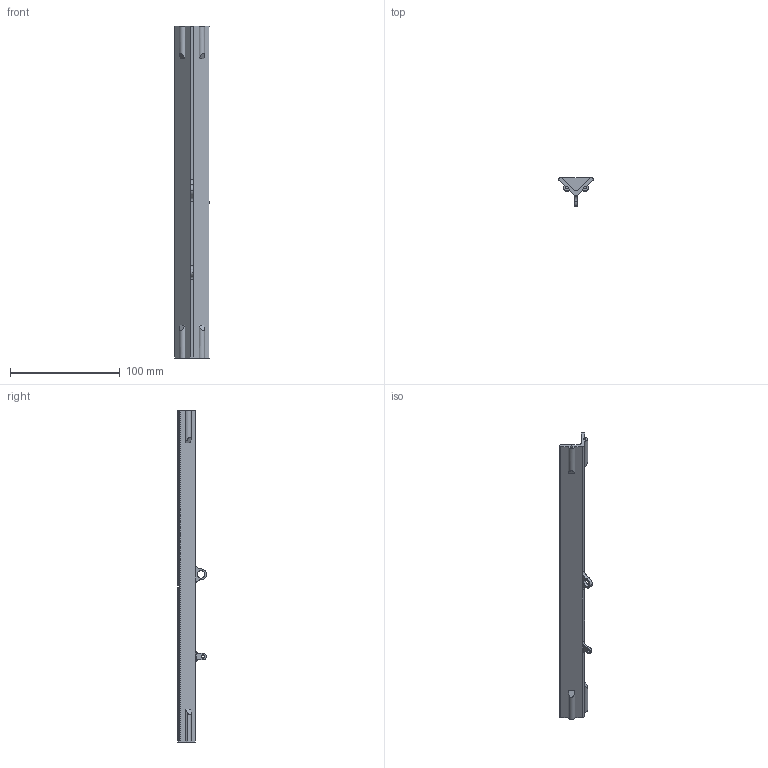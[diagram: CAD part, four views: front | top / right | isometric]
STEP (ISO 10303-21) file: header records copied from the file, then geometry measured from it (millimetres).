
FILE_DESCRIPTION (( 'STEP AP214' ), '1' );
FILE_NAME ('Schiene.STEP', '2025-12-23T14:21:39', ( '' ), ( '' ), 'SwSTEP 2.0', 'SolidWorks 2025', '' );
FILE_SCHEMA (( 'AUTOMOTIVE_DESIGN' ));
Length unit declared in the file: millimetre
Products named in the file (1): Schiene
Bounding box: 31.41 x 26.33 x 303 mm (x, y, z)
Volume: 40460.2 mm3; surface area: 28248.3 mm2
Topology: 1 solids, 1 shells, 72 faces, 190 edges, 124 vertices
Faces by surface type: cylinder 37, plane 35
Entity records: 2291 total; most frequent: CARTESIAN_POINT 433, DIRECTION 396, ORIENTED_EDGE 380, EDGE_CURVE 190, AXIS2_PLACEMENT_3D 143, VERTEX_POINT 124, LINE 110, VECTOR 110
